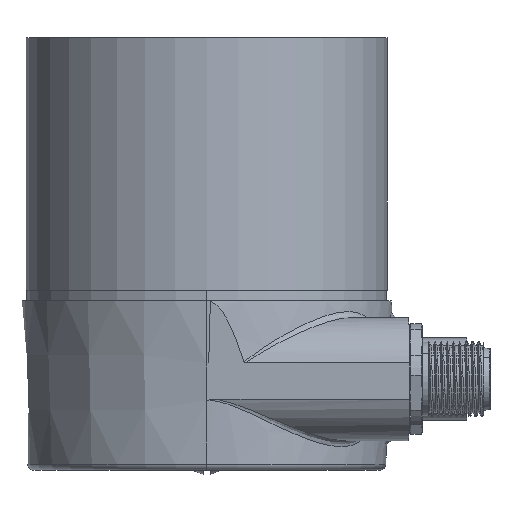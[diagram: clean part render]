
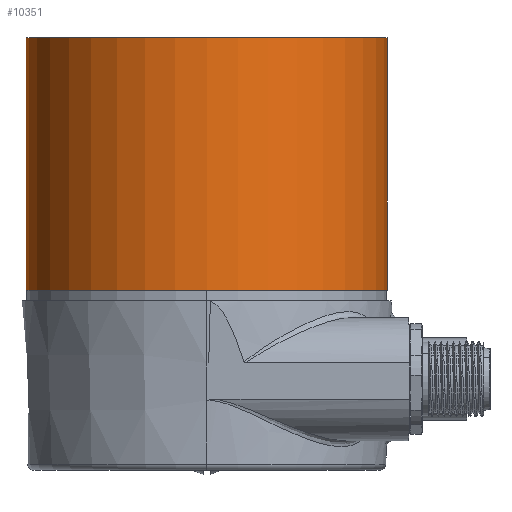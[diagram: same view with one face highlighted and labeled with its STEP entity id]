
A CAD part, left-side view. The second image highlights one B-rep face of the part: STEP entity #10351.
In plain terms, the highlighted cylindrical face has radius 29.3 mm (diameter 58.6 mm), a partial arc.
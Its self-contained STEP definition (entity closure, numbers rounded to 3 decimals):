
#76 = DIRECTION ( 'NONE',  ( 0., 1., 0. ) ) ;
#385 = EDGE_CURVE ( 'NONE', #2835, #1558, #643, .T. ) ;
#643 = CIRCLE ( 'NONE', #14599, 29.3 ) ;
#686 = CARTESIAN_POINT ( 'NONE',  ( 0., 29.3, -41. ) ) ;
#1014 = EDGE_LOOP ( 'NONE', ( #5491, #12030, #10978, #13836 ) ) ;
#1558 = VERTEX_POINT ( 'NONE', #7604 ) ;
#1623 = EDGE_CURVE ( 'NONE', #9239, #2835, #14301, .T. ) ;
#1786 = CARTESIAN_POINT ( 'NONE',  ( 0., -29.3, -41. ) ) ;
#2835 = VERTEX_POINT ( 'NONE', #8277 ) ;
#4364 = CARTESIAN_POINT ( 'NONE',  ( 0., 0., -41. ) ) ;
#5149 = VECTOR ( 'NONE', #8910, 1000. ) ;
#5428 = AXIS2_PLACEMENT_3D ( 'NONE', #4364, #12709, #5571 ) ;
#5491 = ORIENTED_EDGE ( 'NONE', *, *, #9554, .F. ) ;
#5571 = DIRECTION ( 'NONE',  ( 0., -1., 0. ) ) ;
#5623 = CIRCLE ( 'NONE', #5428, 29.3 ) ;
#6576 = EDGE_CURVE ( 'NONE', #12985, #1558, #8976, .T. ) ;
#7091 = DIRECTION ( 'NONE',  ( 0., 0., 1. ) ) ;
#7135 = AXIS2_PLACEMENT_3D ( 'NONE', #9541, #7091, #76 ) ;
#7604 = CARTESIAN_POINT ( 'NONE',  ( 0., 29.3, 0. ) ) ;
#7804 = DIRECTION ( 'NONE',  ( 0., -1., 0. ) ) ;
#7809 = CYLINDRICAL_SURFACE ( 'NONE', #7135, 29.3 ) ;
#8277 = CARTESIAN_POINT ( 'NONE',  ( 0., -29.3, 0. ) ) ;
#8910 = DIRECTION ( 'NONE',  ( 0., 0., 1. ) ) ;
#8933 = DIRECTION ( 'NONE',  ( 0., 0., 1. ) ) ;
#8976 = LINE ( 'NONE', #686, #15334 ) ;
#9004 = CARTESIAN_POINT ( 'NONE',  ( 0., 0., 0. ) ) ;
#9239 = VERTEX_POINT ( 'NONE', #9944 ) ;
#9273 = DIRECTION ( 'NONE',  ( 0., 0., -1. ) ) ;
#9541 = CARTESIAN_POINT ( 'NONE',  ( 0., 0., -41. ) ) ;
#9554 = EDGE_CURVE ( 'NONE', #9239, #12985, #5623, .T. ) ;
#9944 = CARTESIAN_POINT ( 'NONE',  ( 0., -29.3, -41. ) ) ;
#10351 = ADVANCED_FACE ( 'NONE', ( #12086 ), #7809, .T. ) ;
#10978 = ORIENTED_EDGE ( 'NONE', *, *, #385, .T. ) ;
#12030 = ORIENTED_EDGE ( 'NONE', *, *, #1623, .T. ) ;
#12086 = FACE_OUTER_BOUND ( 'NONE', #1014, .T. ) ;
#12709 = DIRECTION ( 'NONE',  ( 0., 0., -1. ) ) ;
#12985 = VERTEX_POINT ( 'NONE', #14904 ) ;
#13836 = ORIENTED_EDGE ( 'NONE', *, *, #6576, .F. ) ;
#14301 = LINE ( 'NONE', #1786, #5149 ) ;
#14599 = AXIS2_PLACEMENT_3D ( 'NONE', #9004, #9273, #7804 ) ;
#14904 = CARTESIAN_POINT ( 'NONE',  ( 0., 29.3, -41. ) ) ;
#15334 = VECTOR ( 'NONE', #8933, 1000. ) ;
